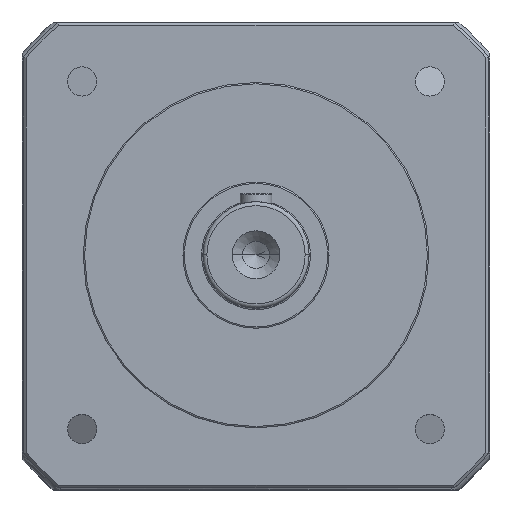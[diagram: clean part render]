
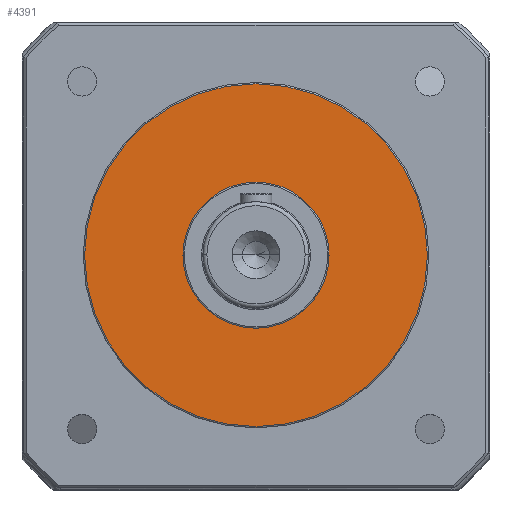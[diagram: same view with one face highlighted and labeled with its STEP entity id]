
A CAD part, top view. The second image highlights one B-rep face of the part: STEP entity #4391.
In plain terms, the highlighted planar face has unit normal (0, 0, 1).
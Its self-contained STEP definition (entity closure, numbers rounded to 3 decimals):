
#70 = CARTESIAN_POINT ( 'NONE',  ( 27.5, 0., 5. ) ) ;
#516 = EDGE_CURVE ( 'NONE', #934, #953, #1267, .T. ) ;
#636 = DIRECTION ( 'NONE',  ( 0., 0., 1. ) ) ;
#641 = CARTESIAN_POINT ( 'NONE',  ( 0., 0., 5. ) ) ;
#873 = ORIENTED_EDGE ( 'NONE', *, *, #4591, .F. ) ;
#934 = VERTEX_POINT ( 'NONE', #70 ) ;
#953 = VERTEX_POINT ( 'NONE', #4033 ) ;
#1267 = CIRCLE ( 'NONE', #3855, 27.5 ) ;
#1438 = CARTESIAN_POINT ( 'NONE',  ( 64.5, 0., 5. ) ) ;
#1653 = CARTESIAN_POINT ( 'NONE',  ( 0., 0., 5. ) ) ;
#1690 = AXIS2_PLACEMENT_3D ( 'NONE', #3623, #636, #4088 ) ;
#2160 = DIRECTION ( 'NONE',  ( 1., 0., 0. ) ) ;
#2320 = CARTESIAN_POINT ( 'NONE',  ( 0., 0., 5. ) ) ;
#2365 = CARTESIAN_POINT ( 'NONE',  ( -64.5, 0., 5. ) ) ;
#2644 = PLANE ( 'NONE',  #3597 ) ;
#2664 = VERTEX_POINT ( 'NONE', #1438 ) ;
#2744 = CARTESIAN_POINT ( 'NONE',  ( 0., 0., 5. ) ) ;
#2800 = DIRECTION ( 'NONE',  ( 1., 0., 0. ) ) ;
#2883 = CIRCLE ( 'NONE', #3996, 64.5 ) ;
#3148 = AXIS2_PLACEMENT_3D ( 'NONE', #2320, #5752, #2800 ) ;
#3155 = DIRECTION ( 'NONE',  ( 1., 0., 0. ) ) ;
#3250 = DIRECTION ( 'NONE',  ( 1., 0., 0. ) ) ;
#3597 = AXIS2_PLACEMENT_3D ( 'NONE', #641, #6082, #3155 ) ;
#3604 = ORIENTED_EDGE ( 'NONE', *, *, #516, .F. ) ;
#3623 = CARTESIAN_POINT ( 'NONE',  ( 0., 0., 5. ) ) ;
#3807 = EDGE_LOOP ( 'NONE', ( #3604, #873 ) ) ;
#3855 = AXIS2_PLACEMENT_3D ( 'NONE', #1653, #5098, #2160 ) ;
#3902 = VERTEX_POINT ( 'NONE', #2365 ) ;
#3996 = AXIS2_PLACEMENT_3D ( 'NONE', #2744, #6169, #3250 ) ;
#4033 = CARTESIAN_POINT ( 'NONE',  ( -27.5, 0., 5. ) ) ;
#4039 = FACE_OUTER_BOUND ( 'NONE', #6341, .T. ) ;
#4088 = DIRECTION ( 'NONE',  ( 1., 0., 0. ) ) ;
#4110 = ORIENTED_EDGE ( 'NONE', *, *, #4786, .T. ) ;
#4391 = ADVANCED_FACE ( 'NONE', ( #5199, #4039 ), #2644, .T. ) ;
#4591 = EDGE_CURVE ( 'NONE', #953, #934, #6263, .T. ) ;
#4786 = EDGE_CURVE ( 'NONE', #3902, #2664, #5645, .T. ) ;
#4932 = EDGE_CURVE ( 'NONE', #2664, #3902, #2883, .T. ) ;
#5098 = DIRECTION ( 'NONE',  ( 0., 0., 1. ) ) ;
#5199 = FACE_BOUND ( 'NONE', #3807, .T. ) ;
#5645 = CIRCLE ( 'NONE', #1690, 64.5 ) ;
#5752 = DIRECTION ( 'NONE',  ( 0., 0., 1. ) ) ;
#6082 = DIRECTION ( 'NONE',  ( 0., 0., 1. ) ) ;
#6110 = ORIENTED_EDGE ( 'NONE', *, *, #4932, .T. ) ;
#6169 = DIRECTION ( 'NONE',  ( 0., 0., 1. ) ) ;
#6263 = CIRCLE ( 'NONE', #3148, 27.5 ) ;
#6341 = EDGE_LOOP ( 'NONE', ( #6110, #4110 ) ) ;
